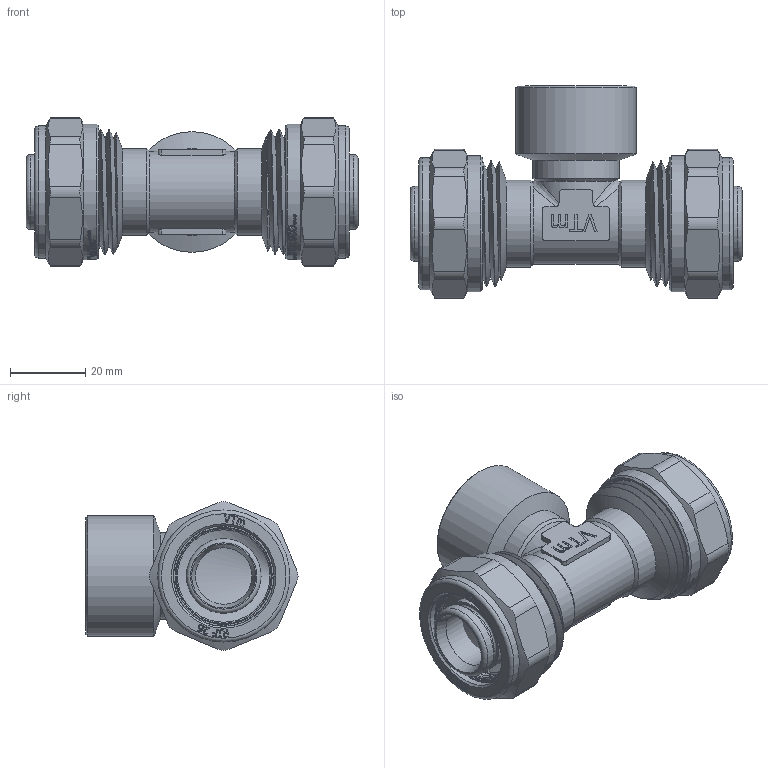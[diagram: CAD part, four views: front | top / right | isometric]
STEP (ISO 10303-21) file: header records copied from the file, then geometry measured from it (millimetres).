
FILE_DESCRIPTION(/* description */ (''),/* implementation_level */ '2;1');
FILE_NAME(/* name */ 'E:\Артём\00000\Работа удаленка\Обжимные фитинги\VTm.332.N.26052.stp',/* time_stamp */ '2020-07-08T13:42:35+03:00',/* author */ ('BeN_GaN'),/* organization */ (''),/* preprocessor_version */ 'ST-DEVELOPER v18',/* originating_system */ 'Autodesk Inventor 2020',/* authorisation */ '');
FILE_SCHEMA (('AUTOMOTIVE_DESIGN { 1 0 10303 214 3 1 1 }'));
Length unit declared in the file: millimetre
Products named in the file (1): VTm.332.N.26052
Bounding box: 88 x 56.19 x 39.39 mm (x, y, z)
Volume: 44875.7 mm3; surface area: 35332.6 mm2
Topology: 3 solids, 3 shells, 1442 faces, 4109 edges, 2780 vertices
Faces by surface type: bspline 770, plane 394, cylinder 191, torus 48, cone 39
Full cylindrical faces by diameter (mm): 15 x1, 17 x1, 17.4 x4, 19.8 x10, 23 x3, 24.1 x6, 24.516 x8, 25.435 x10, 26.2 x2, 26.7 x2, 27.7 x7, 28.5 x2, 28.7 x8, 30.5 x4, 32 x1, 33.3 x2, 35 x2, 36 x2
Entity records: 64548 total; most frequent: CARTESIAN_POINT 31976, ORIENTED_EDGE 8220, DIRECTION 4305, EDGE_CURVE 4110, VERTEX_POINT 2781, LINE 1737, VECTOR 1737, B_SPLINE_CURVE_WITH_KNOTS 1730
